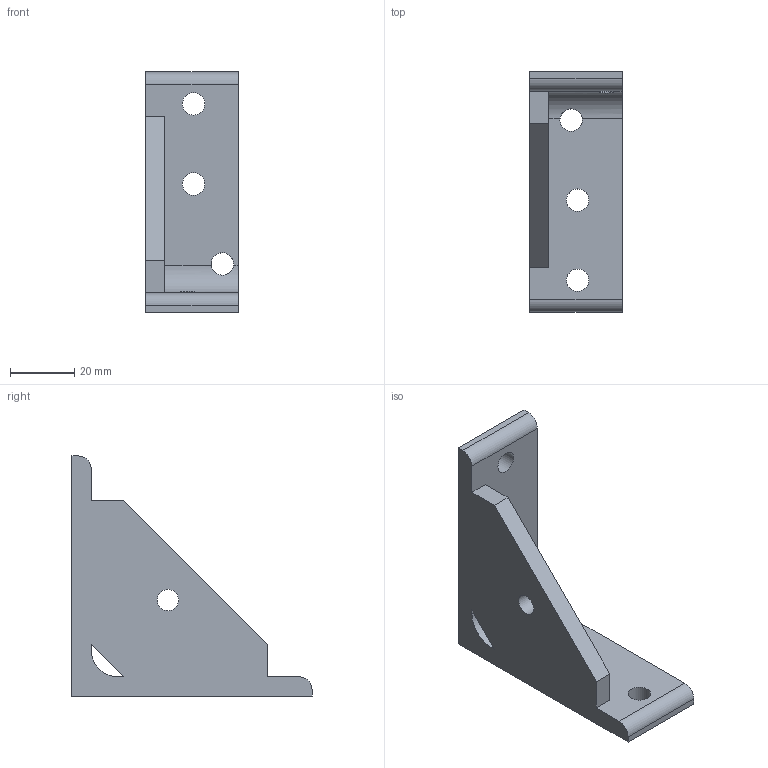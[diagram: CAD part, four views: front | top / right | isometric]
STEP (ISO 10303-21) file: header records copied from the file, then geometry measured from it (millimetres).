
FILE_DESCRIPTION(/* description */ ('Unknown'),/* implementation_level */ '2;1');
FILE_NAME(/* name */ 'TL2975',/* time_stamp */ '2026-09-29T14:21:01+08:00',/* author */ ('Unknown'),/* organization */ ('Unknown'),/* preprocessor_version */ 'ST-DEVELOPER v16.7',/* originating_system */ 'DEX',/* authorisation */ $);
FILE_SCHEMA (('AUTOMOTIVE_DESIGN {1 0 10303 214 3 1 1}'));
Length unit declared in the file: millimetre
Products named in the file (1): TL2975
Bounding box: 29 x 75 x 75 mm (x, y, z)
Volume: 35483.5 mm3; surface area: 14602.4 mm2
Topology: 1 solids, 1 shells, 23 faces, 77 edges, 53 vertices
Faces by surface type: plane 13, cylinder 10
Full cylindrical faces by diameter (mm): 6.647 x1, 7 x6
Entity records: 978 total; most frequent: CARTESIAN_POINT 145, DIRECTION 129, ORIENTED_EDGE 126, EDGE_CURVE 63, VERTEX_POINT 46, AXIS2_PLACEMENT_3D 44, EDGE_LOOP 43, FACE_BOUND 43
